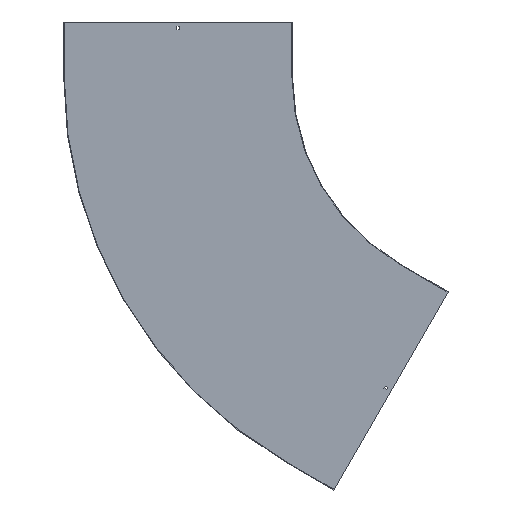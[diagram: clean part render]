
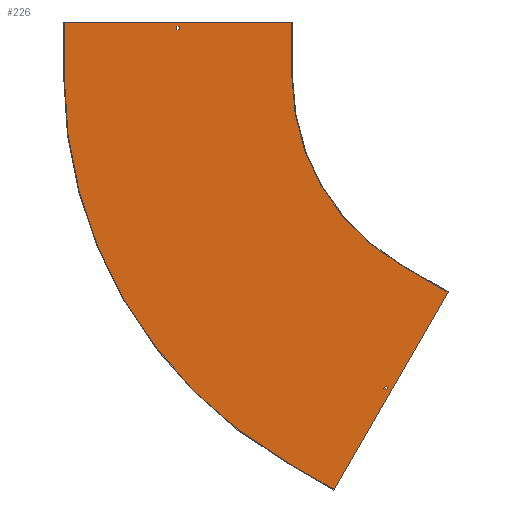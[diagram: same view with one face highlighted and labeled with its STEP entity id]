
A CAD part, front view. The second image highlights one B-rep face of the part: STEP entity #226.
In plain terms, the highlighted planar face has unit normal (0, -1, 0).
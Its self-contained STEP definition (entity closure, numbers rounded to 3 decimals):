
#1 = VERTEX_POINT ( 'NONE', #456 ) ;
#9 = CARTESIAN_POINT ( 'NONE',  ( -164.346, -1.5, -584.656 ) ) ;
#12 = DIRECTION ( 'NONE',  ( 0.5, 0., 0.866 ) ) ;
#16 = CARTESIAN_POINT ( 'NONE',  ( -451.625, -1.5, -782.237 ) ) ;
#19 = AXIS2_PLACEMENT_3D ( 'NONE', #376, #23, #297 ) ;
#23 = DIRECTION ( 'NONE',  ( 0., -1., 0. ) ) ;
#27 = ORIENTED_EDGE ( 'NONE', *, *, #791, .F. ) ;
#29 = DIRECTION ( 'NONE',  ( -0.5, 0., -0.866 ) ) ;
#33 = VECTOR ( 'NONE', #748, 1000. ) ;
#34 = FACE_BOUND ( 'NONE', #99, .T. ) ;
#40 = ORIENTED_EDGE ( 'NONE', *, *, #203, .F. ) ;
#43 = LINE ( 'NONE', #843, #387 ) ;
#50 = AXIS2_PLACEMENT_3D ( 'NONE', #675, #343, #271 ) ;
#52 = DIRECTION ( 'NONE',  ( 1., 0., 0. ) ) ;
#55 = ORIENTED_EDGE ( 'NONE', *, *, #299, .T. ) ;
#69 = LINE ( 'NONE', #9, #195 ) ;
#78 = LINE ( 'NONE', #436, #657 ) ;
#80 = CARTESIAN_POINT ( 'NONE',  ( -295., -1.5, -510.955 ) ) ;
#83 = LINE ( 'NONE', #237, #251 ) ;
#86 = CARTESIAN_POINT ( 'NONE',  ( -448.375, -1.5, -776.608 ) ) ;
#90 = DIRECTION ( 'NONE',  ( -1., 0., 0. ) ) ;
#99 = EDGE_LOOP ( 'NONE', ( #574, #571, #621, #55 ) ) ;
#100 = DIRECTION ( 'NONE',  ( 0., 0., 1. ) ) ;
#102 = ORIENTED_EDGE ( 'NONE', *, *, #768, .F. ) ;
#103 = EDGE_CURVE ( 'NONE', #136, #231, #69, .T. ) ;
#134 = CARTESIAN_POINT ( 'NONE',  ( -1210., -1.5, 0. ) ) ;
#136 = VERTEX_POINT ( 'NONE', #344 ) ;
#153 = CARTESIAN_POINT ( 'NONE',  ( -328.863, -1.5, -845.608 ) ) ;
#157 = CARTESIAN_POINT ( 'NONE',  ( -336.658, -1.5, -841.108 ) ) ;
#159 = ORIENTED_EDGE ( 'NONE', *, *, #608, .F. ) ;
#191 = VERTEX_POINT ( 'NONE', #80 ) ;
#195 = VECTOR ( 'NONE', #750, 1000. ) ;
#198 = VERTEX_POINT ( 'NONE', #342 ) ;
#203 = EDGE_CURVE ( 'NONE', #335, #1, #472, .T. ) ;
#226 = ADVANCED_FACE ( 'NONE', ( #806, #410, #34 ), #578, .T. ) ;
#231 = VERTEX_POINT ( 'NONE', #307 ) ;
#235 = VECTOR ( 'NONE', #598, 1000. ) ;
#237 = CARTESIAN_POINT ( 'NONE',  ( 111.717, -1.5, -64.5 ) ) ;
#238 = CARTESIAN_POINT ( 'NONE',  ( -1210., -1.5, 0. ) ) ;
#239 = CARTESIAN_POINT ( 'NONE',  ( -903.25, -1.5, 129. ) ) ;
#251 = VECTOR ( 'NONE', #29, 1000. ) ;
#252 = VERTEX_POINT ( 'NONE', #157 ) ;
#253 = DIRECTION ( 'NONE',  ( 0.866, 0., -0.5 ) ) ;
#255 = ORIENTED_EDGE ( 'NONE', *, *, #802, .F. ) ;
#264 = CARTESIAN_POINT ( 'NONE',  ( -590., -1.5, 150. ) ) ;
#266 = VERTEX_POINT ( 'NONE', #778 ) ;
#271 = DIRECTION ( 'NONE',  ( 0., 0., -1. ) ) ;
#288 = EDGE_CURVE ( 'NONE', #568, #697, #438, .T. ) ;
#297 = DIRECTION ( 'NONE',  ( 0., 0., -1. ) ) ;
#299 = EDGE_CURVE ( 'NONE', #697, #266, #836, .T. ) ;
#302 = CARTESIAN_POINT ( 'NONE',  ( 0., -1.5, 129. ) ) ;
#307 = CARTESIAN_POINT ( 'NONE',  ( -475.096, -1.5, -1122.891 ) ) ;
#310 = VECTOR ( 'NONE', #253, 1000. ) ;
#326 = VERTEX_POINT ( 'NONE', #238 ) ;
#335 = VERTEX_POINT ( 'NONE', #595 ) ;
#342 = CARTESIAN_POINT ( 'NONE',  ( -605., -1.5, -1047.891 ) ) ;
#343 = DIRECTION ( 'NONE',  ( 0., -1., 0. ) ) ;
#344 = CARTESIAN_POINT ( 'NONE',  ( -165.096, -1.5, -585.955 ) ) ;
#347 = ORIENTED_EDGE ( 'NONE', *, *, #520, .F. ) ;
#349 = VECTOR ( 'NONE', #100, 1000. ) ;
#359 = DIRECTION ( 'NONE',  ( 0., 1., 0. ) ) ;
#376 = CARTESIAN_POINT ( 'NONE',  ( 0., -1.5, 0. ) ) ;
#377 = EDGE_LOOP ( 'NONE', ( #849, #159, #102, #813, #409, #670, #347, #565 ) ) ;
#382 = LINE ( 'NONE', #845, #310 ) ;
#387 = VECTOR ( 'NONE', #789, 1000. ) ;
#391 = EDGE_CURVE ( 'NONE', #231, #198, #43, .T. ) ;
#401 = EDGE_CURVE ( 'NONE', #266, #611, #725, .T. ) ;
#402 = DIRECTION ( 'NONE',  ( 0., 0., 1. ) ) ;
#409 = ORIENTED_EDGE ( 'NONE', *, *, #103, .F. ) ;
#410 = FACE_OUTER_BOUND ( 'NONE', #377, .T. ) ;
#429 = EDGE_CURVE ( 'NONE', #437, #692, #660, .T. ) ;
#432 = CARTESIAN_POINT ( 'NONE',  ( -590., -1.5, 0. ) ) ;
#435 = CIRCLE ( 'NONE', #589, 1210. ) ;
#436 = CARTESIAN_POINT ( 'NONE',  ( 119.512, -1.5, -69. ) ) ;
#437 = VERTEX_POINT ( 'NONE', #797 ) ;
#438 = LINE ( 'NONE', #302, #645 ) ;
#443 = LINE ( 'NONE', #511, #473 ) ;
#451 = VERTEX_POINT ( 'NONE', #462 ) ;
#456 = CARTESIAN_POINT ( 'NONE',  ( -332.113, -1.5, -851.237 ) ) ;
#462 = CARTESIAN_POINT ( 'NONE',  ( -1210., -1.5, 150. ) ) ;
#472 = LINE ( 'NONE', #16, #33 ) ;
#473 = VECTOR ( 'NONE', #583, 1000. ) ;
#492 = DIRECTION ( 'NONE',  ( 0., 0., -1. ) ) ;
#511 = CARTESIAN_POINT ( 'NONE',  ( -896.75, -1.5, 0. ) ) ;
#517 = CARTESIAN_POINT ( 'NONE',  ( -1211.5, -1.5, 150. ) ) ;
#520 = EDGE_CURVE ( 'NONE', #692, #191, #756, .T. ) ;
#521 = CARTESIAN_POINT ( 'NONE',  ( -896.75, -1.5, 138. ) ) ;
#565 = ORIENTED_EDGE ( 'NONE', *, *, #429, .F. ) ;
#568 = VERTEX_POINT ( 'NONE', #731 ) ;
#571 = ORIENTED_EDGE ( 'NONE', *, *, #838, .T. ) ;
#574 = ORIENTED_EDGE ( 'NONE', *, *, #401, .T. ) ;
#578 = PLANE ( 'NONE',  #19 ) ;
#583 = DIRECTION ( 'NONE',  ( 0., 0., -1. ) ) ;
#589 = AXIS2_PLACEMENT_3D ( 'NONE', #637, #359, #492 ) ;
#591 = ORIENTED_EDGE ( 'NONE', *, *, #674, .F. ) ;
#595 = CARTESIAN_POINT ( 'NONE',  ( -339.908, -1.5, -846.737 ) ) ;
#598 = DIRECTION ( 'NONE',  ( 1., 0., 0. ) ) ;
#608 = EDGE_CURVE ( 'NONE', #326, #451, #737, .T. ) ;
#610 = EDGE_CURVE ( 'NONE', #191, #136, #382, .T. ) ;
#611 = VERTEX_POINT ( 'NONE', #521 ) ;
#621 = ORIENTED_EDGE ( 'NONE', *, *, #288, .T. ) ;
#627 = CARTESIAN_POINT ( 'NONE',  ( -903.25, -1.5, 0. ) ) ;
#631 = VECTOR ( 'NONE', #52, 1000. ) ;
#637 = CARTESIAN_POINT ( 'NONE',  ( 0., -1.5, 0. ) ) ;
#645 = VECTOR ( 'NONE', #90, 1000. ) ;
#657 = VECTOR ( 'NONE', #12, 1000. ) ;
#660 = LINE ( 'NONE', #264, #729 ) ;
#665 = CARTESIAN_POINT ( 'NONE',  ( 0., -1.5, 138. ) ) ;
#670 = ORIENTED_EDGE ( 'NONE', *, *, #610, .F. ) ;
#674 = EDGE_CURVE ( 'NONE', #790, #252, #837, .T. ) ;
#675 = CARTESIAN_POINT ( 'NONE',  ( 0., -1.5, 0. ) ) ;
#682 = VECTOR ( 'NONE', #402, 1000. ) ;
#692 = VERTEX_POINT ( 'NONE', #432 ) ;
#697 = VERTEX_POINT ( 'NONE', #239 ) ;
#714 = VECTOR ( 'NONE', #776, 1000. ) ;
#725 = LINE ( 'NONE', #665, #235 ) ;
#729 = VECTOR ( 'NONE', #800, 1000. ) ;
#731 = CARTESIAN_POINT ( 'NONE',  ( -896.75, -1.5, 129. ) ) ;
#737 = LINE ( 'NONE', #134, #682 ) ;
#748 = DIRECTION ( 'NONE',  ( 0.866, 0., -0.5 ) ) ;
#750 = DIRECTION ( 'NONE',  ( -0.5, 0., -0.866 ) ) ;
#756 = CIRCLE ( 'NONE', #50, 590. ) ;
#768 = EDGE_CURVE ( 'NONE', #198, #326, #435, .T. ) ;
#774 = EDGE_LOOP ( 'NONE', ( #591, #255, #40, #27 ) ) ;
#776 = DIRECTION ( 'NONE',  ( -0.866, 0., 0.5 ) ) ;
#778 = CARTESIAN_POINT ( 'NONE',  ( -903.25, -1.5, 138. ) ) ;
#789 = DIRECTION ( 'NONE',  ( -0.866, 0., 0.5 ) ) ;
#790 = VERTEX_POINT ( 'NONE', #153 ) ;
#791 = EDGE_CURVE ( 'NONE', #252, #335, #83, .T. ) ;
#797 = CARTESIAN_POINT ( 'NONE',  ( -590., -1.5, 150. ) ) ;
#800 = DIRECTION ( 'NONE',  ( 0., 0., -1. ) ) ;
#802 = EDGE_CURVE ( 'NONE', #1, #790, #78, .T. ) ;
#806 = FACE_BOUND ( 'NONE', #774, .T. ) ;
#813 = ORIENTED_EDGE ( 'NONE', *, *, #391, .F. ) ;
#836 = LINE ( 'NONE', #627, #349 ) ;
#837 = LINE ( 'NONE', #86, #714 ) ;
#838 = EDGE_CURVE ( 'NONE', #611, #568, #443, .T. ) ;
#841 = LINE ( 'NONE', #517, #631 ) ;
#843 = CARTESIAN_POINT ( 'NONE',  ( -475.096, -1.5, -1122.891 ) ) ;
#845 = CARTESIAN_POINT ( 'NONE',  ( -295., -1.5, -510.955 ) ) ;
#849 = ORIENTED_EDGE ( 'NONE', *, *, #863, .F. ) ;
#863 = EDGE_CURVE ( 'NONE', #451, #437, #841, .T. ) ;
